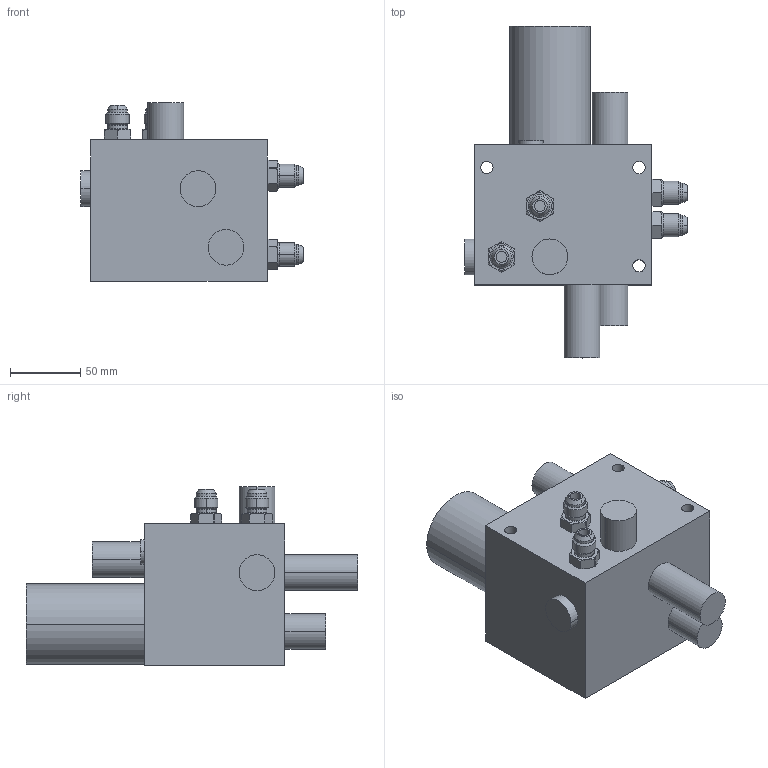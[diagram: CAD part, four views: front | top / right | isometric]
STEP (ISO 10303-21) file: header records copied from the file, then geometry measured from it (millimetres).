
FILE_DESCRIPTION((''),'2;1');
FILE_NAME('164000-45040_HYDRAULIC_VALVE_UN','2020-08-19T',('ib46307'),('YANMAR CO., LTD.'),'PRO/ENGINEER BY PARAMETRIC TECHNOLOGY CORPORATION, 2017170','PRO/ENGINEER BY PARAMETRIC TECHNOLOGY CORPORATION, 2017170','');
FILE_SCHEMA(('CONFIG_CONTROL_DESIGN'));
Length unit declared in the file: millimetre
Products named in the file (1): 164000-45040_HYDRAULIC_VALVE_UN
Bounding box: 157.9 x 235.59 x 126.8 mm (x, y, z)
Volume: 1528134.8 mm3; surface area: 114712.5 mm2
Topology: 1 solids, 5 shells, 171 faces, 432 edges, 276 vertices
Faces by surface type: revolution 92, bspline 79
Entity records: 7215 total; most frequent: CARTESIAN_POINT 3499, ORIENTED_EDGE 832, DIRECTION 526, EDGE_CURVE 432, VERTEX_POINT 276, EDGE_LOOP 194, FACE_OUTER_BOUND 171, ADVANCED_FACE 171
